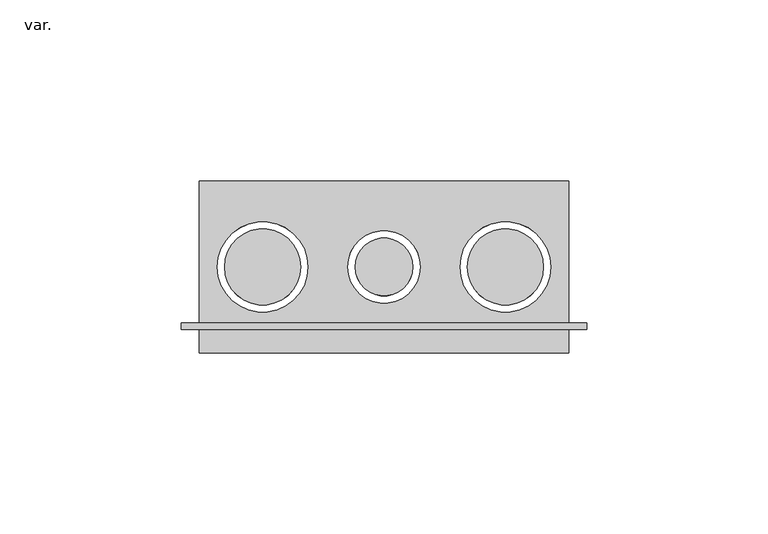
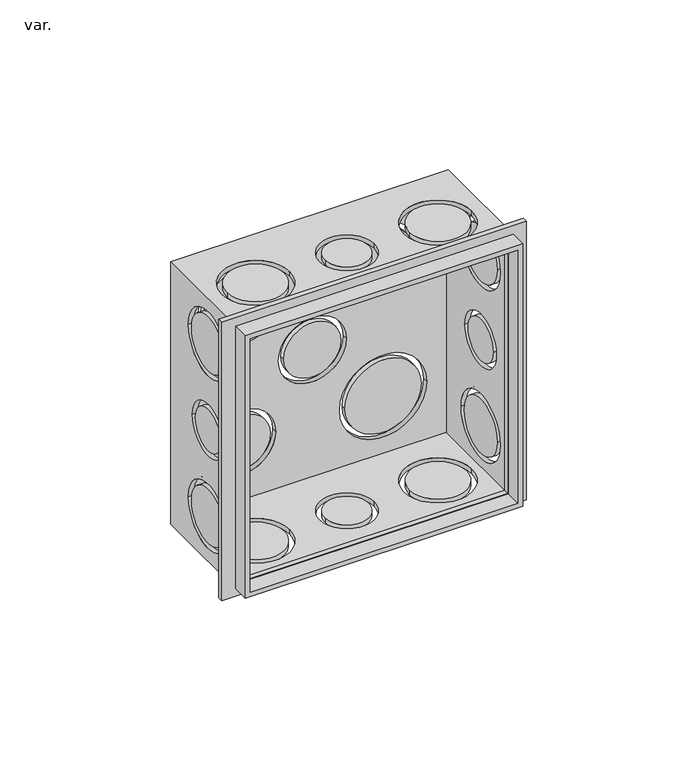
"""IFC4 building model written with IfcOpenShell, lengths in millimetres: pipe fitting geometry, AmancoWavin_ConexõesdoConduite_LinhaEletricaCorrugadoCaixa4x4 : var.."""

from ifc_helpers import new_model, si_unit, frame, origin, place, context, project, spatial, polyline, circle_curve, outline, extrude, source, transform, mapped, element, save
from ifc_brep_helpers import plane_surface, cylinder_surface, revolved_surface, advanced_brep


def var_2987dd68(model_context):
    return source(origin(), model_context, "Body", "SolidModel", [
        extrude(outline(polyline([(54.15, 56.0), (54.15, -56.0), (-54.15, -56.0), (-54.15, 56.0), (54.15, 56.0)]), holes=[polyline([(49.2, 49.2), (-49.2, 49.2), (-49.2, -49.2), (49.2, -49.2), (49.2, 49.2)])]), frame((0.0, 6.5, 0.0), z_axis=(0.0, 1.0, 0.0), x_axis=(0.0, 0.0, 1.0)), (0.0, 0.0, 1.0), 1.8),
        advanced_brep(
        [(51.0, 47.5, 51.0), (51.0, 47.5, -51.0), (-51.0, 47.5, -51.0), (-51.0, 47.5, 51.0), (-42.0, 47.5, 27.08), (-10.0, 47.5, 27.08), (13.5, 47.5, 27.08), (38.5, 47.5, 27.08), (-12.5, 47.5, 0.0), (12.5, 47.5, 0.0), (-38.5, 47.5, -27.08), (-13.5, 47.5, -27.08), (10.0, 47.5, -27.08), (42.0, 47.5, -27.08), (51.0, 0.0, 51.0), (-51.0, 0.0, 51.0), (-51.0, 0.0, -51.0), (51.0, 0.0, -51.0), (49.2, 0.0, 49.2), (49.2, 0.0, -49.2), (-49.2, 0.0, -49.2), (-49.2, 0.0, 49.2), (51.0, 33.75, 0.0), (51.0, 13.75, 0.0), (51.0, 36.25, 33.5), (51.0, 11.25, 33.5), (51.0, 36.25, -33.5), (51.0, 11.25, -33.5), (-10.0, 23.75, -51.0), (10.0, 23.75, -51.0), (-46.0, 23.75, -51.0), (-21.0, 23.75, -51.0), (21.0, 23.75, -51.0), (46.0, 23.75, -51.0), (-51.0, 13.75, 0.0), (-51.0, 33.75, 0.0), (-51.0, 11.25, 33.5), (-51.0, 36.25, 33.5), (-51.0, 11.25, -33.5), (-51.0, 36.25, -33.5), (10.0, 23.75, 51.0), (-10.0, 23.75, 51.0), (-21.0, 23.75, 51.0), (-46.0, 23.75, 51.0), (46.0, 23.75, 51.0), (21.0, 23.75, 51.0), (49.2, 45.7, 49.2), (-49.2, 45.7, 49.2), (-49.2, 45.7, -49.2), (49.2, 45.7, -49.2), (-10.0, 45.7, 27.08), (-42.0, 45.7, 27.08), (38.5, 45.7, 27.08), (13.5, 45.7, 27.08), (12.5, 45.7, 0.0), (-12.5, 45.7, 0.0), (-13.5, 45.7, -27.08), (-38.5, 45.7, -27.08), (42.0, 45.7, -27.08), (10.0, 45.7, -27.08), (49.2, 13.75, 0.0), (49.2, 33.75, 0.0), (49.2, 11.25, 33.5), (49.2, 36.25, 33.5), (49.2, 11.25, -33.5), (49.2, 36.25, -33.5), (10.0, 23.75, -49.2), (-10.0, 23.75, -49.2), (-21.0, 23.75, -49.2), (-46.0, 23.75, -49.2), (46.0, 23.75, -49.2), (21.0, 23.75, -49.2), (-49.2, 33.75, 0.0), (-49.2, 13.75, 0.0), (-49.2, 36.25, 33.5), (-49.2, 11.25, 33.5), (-49.2, 36.25, -33.5), (-49.2, 11.25, -33.5), (-10.0, 23.75, 49.2), (10.0, 23.75, 49.2), (-46.0, 23.75, 49.2), (-21.0, 23.75, 49.2), (21.0, 23.75, 49.2), (46.0, 23.75, 49.2)],
        [
            (0, 1),
            (1, 2),
            (2, 3),
            (3, 0),
            (4, 5, circle_curve(frame((-26.0, 47.5, 27.08), z_axis=(0.0, -1.0, 0.0), x_axis=(-1.0, 0.0, 0.0)), 16.0)),
            (5, 4, circle_curve(frame((-26.0, 47.5, 27.08), z_axis=(0.0, -1.0, 0.0), x_axis=(-1.0, 0.0, 0.0)), 16.0)),
            (6, 7, circle_curve(frame((26.0, 47.5, 27.08), z_axis=(0.0, -1.0, 0.0), x_axis=(-1.0, 0.0, 0.0)), 12.5)),
            (7, 6, circle_curve(frame((26.0, 47.5, 27.08), z_axis=(0.0, -1.0, 0.0), x_axis=(-1.0, 0.0, 0.0)), 12.5)),
            (8, 9, circle_curve(frame((0.0, 47.5, 0.0), z_axis=(0.0, -1.0, 0.0), x_axis=(-1.0, 0.0, 0.0)), 12.5)),
            (9, 8, circle_curve(frame((0.0, 47.5, 0.0), z_axis=(0.0, -1.0, 0.0), x_axis=(-1.0, 0.0, 0.0)), 12.5)),
            (10, 11, circle_curve(frame((-26.0, 47.5, -27.08), z_axis=(0.0, -1.0, 0.0), x_axis=(-1.0, 0.0, 0.0)), 12.5)),
            (11, 10, circle_curve(frame((-26.0, 47.5, -27.08), z_axis=(0.0, -1.0, 0.0), x_axis=(-1.0, 0.0, 0.0)), 12.5)),
            (12, 13, circle_curve(frame((26.0, 47.5, -27.08), z_axis=(0.0, -1.0, 0.0), x_axis=(-1.0, 0.0, 0.0)), 16.0)),
            (13, 12, circle_curve(frame((26.0, 47.5, -27.08), z_axis=(0.0, -1.0, 0.0), x_axis=(-1.0, 0.0, 0.0)), 16.0)),
            (14, 15),
            (15, 16),
            (16, 17),
            (17, 14),
            (18, 19),
            (19, 20),
            (20, 21),
            (21, 18),
            (0, 14),
            (17, 1),
            (22, 23, circle_curve(frame((51.0, 23.75, 0.0), z_axis=(-1.0, 0.0, 0.0), x_axis=(0.0, -1.0, 0.0)), 10.0)),
            (23, 22, circle_curve(frame((51.0, 23.75, 0.0), z_axis=(-1.0, 0.0, 0.0), x_axis=(0.0, -1.0, 0.0)), 10.0)),
            (24, 25, circle_curve(frame((51.0, 23.75, 33.5), z_axis=(-1.0, 0.0, 0.0), x_axis=(0.0, -1.0, 0.0)), 12.5)),
            (25, 24, circle_curve(frame((51.0, 23.75, 33.5), z_axis=(-1.0, 0.0, 0.0), x_axis=(0.0, -1.0, 0.0)), 12.5)),
            (26, 27, circle_curve(frame((51.0, 23.75, -33.5), z_axis=(-1.0, 0.0, 0.0), x_axis=(0.0, -1.0, 0.0)), 12.5)),
            (27, 26, circle_curve(frame((51.0, 23.75, -33.5), z_axis=(-1.0, 0.0, 0.0), x_axis=(0.0, -1.0, 0.0)), 12.5)),
            (16, 2),
            (28, 29, circle_curve(frame((0.0, 23.75, -51.0), z_axis=(0.0, 0.0, 1.0), x_axis=(1.0, 0.0, 0.0)), 10.0)),
            (29, 28, circle_curve(frame((0.0, 23.75, -51.0), z_axis=(0.0, 0.0, 1.0), x_axis=(1.0, 0.0, 0.0)), 10.0)),
            (30, 31, circle_curve(frame((-33.5, 23.75, -51.0), z_axis=(0.0, 0.0, 1.0), x_axis=(1.0, 0.0, 0.0)), 12.5)),
            (31, 30, circle_curve(frame((-33.5, 23.75, -51.0), z_axis=(0.0, 0.0, 1.0), x_axis=(1.0, 0.0, 0.0)), 12.5)),
            (32, 33, circle_curve(frame((33.5, 23.75, -51.0), z_axis=(0.0, 0.0, 1.0), x_axis=(1.0, 0.0, 0.0)), 12.5)),
            (33, 32, circle_curve(frame((33.5, 23.75, -51.0), z_axis=(0.0, 0.0, 1.0), x_axis=(1.0, 0.0, 0.0)), 12.5)),
            (15, 3),
            (34, 35, circle_curve(frame((-51.0, 23.75, 0.0), z_axis=(1.0, 0.0, 0.0), x_axis=(0.0, -1.0, 0.0)), 10.0)),
            (35, 34, circle_curve(frame((-51.0, 23.75, 0.0), z_axis=(1.0, 0.0, 0.0), x_axis=(0.0, -1.0, 0.0)), 10.0)),
            (36, 37, circle_curve(frame((-51.0, 23.75, 33.5), z_axis=(1.0, 0.0, 0.0), x_axis=(0.0, -1.0, 0.0)), 12.5)),
            (37, 36, circle_curve(frame((-51.0, 23.75, 33.5), z_axis=(1.0, 0.0, 0.0), x_axis=(0.0, -1.0, 0.0)), 12.5)),
            (38, 39, circle_curve(frame((-51.0, 23.75, -33.5), z_axis=(1.0, 0.0, 0.0), x_axis=(0.0, -1.0, 0.0)), 12.5)),
            (39, 38, circle_curve(frame((-51.0, 23.75, -33.5), z_axis=(1.0, 0.0, 0.0), x_axis=(0.0, -1.0, 0.0)), 12.5)),
            (40, 41, circle_curve(frame((0.0, 23.75, 51.0), z_axis=(0.0, 0.0, -1.0), x_axis=(1.0, 0.0, 0.0)), 10.0)),
            (41, 40, circle_curve(frame((0.0, 23.75, 51.0), z_axis=(0.0, 0.0, -1.0), x_axis=(1.0, 0.0, 0.0)), 10.0)),
            (42, 43, circle_curve(frame((-33.5, 23.75, 51.0), z_axis=(0.0, 0.0, -1.0), x_axis=(1.0, 0.0, 0.0)), 12.5)),
            (43, 42, circle_curve(frame((-33.5, 23.75, 51.0), z_axis=(0.0, 0.0, -1.0), x_axis=(1.0, 0.0, 0.0)), 12.5)),
            (44, 45, circle_curve(frame((33.5, 23.75, 51.0), z_axis=(0.0, 0.0, -1.0), x_axis=(1.0, 0.0, 0.0)), 12.5)),
            (45, 44, circle_curve(frame((33.5, 23.75, 51.0), z_axis=(0.0, 0.0, -1.0), x_axis=(1.0, 0.0, 0.0)), 12.5)),
            (46, 47),
            (47, 48),
            (48, 49),
            (49, 46),
            (50, 51, circle_curve(frame((-26.0, 45.7, 27.08), z_axis=(0.0, 1.0, 0.0), x_axis=(-1.0, 0.0, 0.0)), 16.0)),
            (51, 50, circle_curve(frame((-26.0, 45.7, 27.08), z_axis=(0.0, 1.0, 0.0), x_axis=(-1.0, 0.0, 0.0)), 16.0)),
            (52, 53, circle_curve(frame((26.0, 45.7, 27.08), z_axis=(0.0, 1.0, 0.0), x_axis=(-1.0, 0.0, 0.0)), 12.5)),
            (53, 52, circle_curve(frame((26.0, 45.7, 27.08), z_axis=(0.0, 1.0, 0.0), x_axis=(-1.0, 0.0, 0.0)), 12.5)),
            (54, 55, circle_curve(frame((0.0, 45.7, 0.0), z_axis=(0.0, 1.0, 0.0), x_axis=(-1.0, 0.0, 0.0)), 12.5)),
            (55, 54, circle_curve(frame((0.0, 45.7, 0.0), z_axis=(0.0, 1.0, 0.0), x_axis=(-1.0, 0.0, 0.0)), 12.5)),
            (56, 57, circle_curve(frame((-26.0, 45.7, -27.08), z_axis=(0.0, 1.0, 0.0), x_axis=(-1.0, 0.0, 0.0)), 12.5)),
            (57, 56, circle_curve(frame((-26.0, 45.7, -27.08), z_axis=(0.0, 1.0, 0.0), x_axis=(-1.0, 0.0, 0.0)), 12.5)),
            (58, 59, circle_curve(frame((26.0, 45.7, -27.08), z_axis=(0.0, 1.0, 0.0), x_axis=(-1.0, 0.0, 0.0)), 16.0)),
            (59, 58, circle_curve(frame((26.0, 45.7, -27.08), z_axis=(0.0, 1.0, 0.0), x_axis=(-1.0, 0.0, 0.0)), 16.0)),
            (49, 19),
            (18, 46),
            (60, 61, circle_curve(frame((49.2, 23.75, 0.0), z_axis=(1.0, 0.0, 0.0), x_axis=(0.0, -1.0, 0.0)), 10.0)),
            (61, 60, circle_curve(frame((49.2, 23.75, 0.0), z_axis=(1.0, 0.0, 0.0), x_axis=(0.0, -1.0, 0.0)), 10.0)),
            (62, 63, circle_curve(frame((49.2, 23.75, 33.5), z_axis=(1.0, 0.0, 0.0), x_axis=(0.0, -1.0, 0.0)), 12.5)),
            (63, 62, circle_curve(frame((49.2, 23.75, 33.5), z_axis=(1.0, 0.0, 0.0), x_axis=(0.0, -1.0, 0.0)), 12.5)),
            (64, 65, circle_curve(frame((49.2, 23.75, -33.5), z_axis=(1.0, 0.0, 0.0), x_axis=(0.0, -1.0, 0.0)), 12.5)),
            (65, 64, circle_curve(frame((49.2, 23.75, -33.5), z_axis=(1.0, 0.0, 0.0), x_axis=(0.0, -1.0, 0.0)), 12.5)),
            (48, 20),
            (66, 67, circle_curve(frame((0.0, 23.75, -49.2), z_axis=(0.0, 0.0, -1.0), x_axis=(1.0, 0.0, 0.0)), 10.0)),
            (67, 66, circle_curve(frame((0.0, 23.75, -49.2), z_axis=(0.0, 0.0, -1.0), x_axis=(1.0, 0.0, 0.0)), 10.0)),
            (68, 69, circle_curve(frame((-33.5, 23.75, -49.2), z_axis=(0.0, 0.0, -1.0), x_axis=(1.0, 0.0, 0.0)), 12.5)),
            (69, 68, circle_curve(frame((-33.5, 23.75, -49.2), z_axis=(0.0, 0.0, -1.0), x_axis=(1.0, 0.0, 0.0)), 12.5)),
            (70, 71, circle_curve(frame((33.5, 23.75, -49.2), z_axis=(0.0, 0.0, -1.0), x_axis=(1.0, 0.0, 0.0)), 12.5)),
            (71, 70, circle_curve(frame((33.5, 23.75, -49.2), z_axis=(0.0, 0.0, -1.0), x_axis=(1.0, 0.0, 0.0)), 12.5)),
            (47, 21),
            (72, 73, circle_curve(frame((-49.2, 23.75, 0.0), z_axis=(-1.0, 0.0, 0.0), x_axis=(0.0, -1.0, 0.0)), 10.0)),
            (73, 72, circle_curve(frame((-49.2, 23.75, 0.0), z_axis=(-1.0, 0.0, 0.0), x_axis=(0.0, -1.0, 0.0)), 10.0)),
            (74, 75, circle_curve(frame((-49.2, 23.75, 33.5), z_axis=(-1.0, 0.0, 0.0), x_axis=(0.0, -1.0, 0.0)), 12.5)),
            (75, 74, circle_curve(frame((-49.2, 23.75, 33.5), z_axis=(-1.0, 0.0, 0.0), x_axis=(0.0, -1.0, 0.0)), 12.5)),
            (76, 77, circle_curve(frame((-49.2, 23.75, -33.5), z_axis=(-1.0, 0.0, 0.0), x_axis=(0.0, -1.0, 0.0)), 12.5)),
            (77, 76, circle_curve(frame((-49.2, 23.75, -33.5), z_axis=(-1.0, 0.0, 0.0), x_axis=(0.0, -1.0, 0.0)), 12.5)),
            (78, 79, circle_curve(frame((0.0, 23.75, 49.2), z_axis=(0.0, 0.0, 1.0), x_axis=(1.0, 0.0, 0.0)), 10.0)),
            (79, 78, circle_curve(frame((0.0, 23.75, 49.2), z_axis=(0.0, 0.0, 1.0), x_axis=(1.0, 0.0, 0.0)), 10.0)),
            (80, 81, circle_curve(frame((-33.5, 23.75, 49.2), z_axis=(0.0, 0.0, 1.0), x_axis=(1.0, 0.0, 0.0)), 12.5)),
            (81, 80, circle_curve(frame((-33.5, 23.75, 49.2), z_axis=(0.0, 0.0, 1.0), x_axis=(1.0, 0.0, 0.0)), 12.5)),
            (82, 83, circle_curve(frame((33.5, 23.75, 49.2), z_axis=(0.0, 0.0, 1.0), x_axis=(1.0, 0.0, 0.0)), 12.5)),
            (83, 82, circle_curve(frame((33.5, 23.75, 49.2), z_axis=(0.0, 0.0, 1.0), x_axis=(1.0, 0.0, 0.0)), 12.5)),
            (22, 61),
            (60, 23),
            (72, 35),
            (34, 73),
            (24, 63),
            (62, 25),
            (74, 37),
            (36, 75),
            (26, 65),
            (64, 27),
            (76, 39),
            (38, 77),
            (28, 67),
            (66, 29),
            (78, 41),
            (40, 79),
            (30, 69),
            (68, 31),
            (80, 43),
            (42, 81),
            (32, 71),
            (70, 33),
            (82, 45),
            (44, 83),
            (4, 51),
            (50, 5),
            (6, 53),
            (52, 7),
            (8, 55),
            (54, 9),
            (10, 57),
            (56, 11),
            (12, 59),
            (58, 13),
        ],
        [
            plane_surface(frame((51.0, 47.5, 51.0), z_axis=(0.0, 1.0, 0.0), x_axis=(0.0, 0.0, -1.0))),
            plane_surface(frame((51.0, 0.0, 51.0), z_axis=(0.0, -1.0, 0.0), x_axis=(0.0, 0.0, 1.0))),
            plane_surface(frame((51.0, 47.5, 51.0), z_axis=(1.0, 0.0, 0.0), x_axis=(0.0, -1.0, 0.0))),
            plane_surface(frame((51.0, 47.5, -51.0), z_axis=(0.0, 0.0, -1.0), x_axis=(0.0, -1.0, 0.0))),
            plane_surface(frame((-51.0, 47.5, -51.0), z_axis=(-1.0, 0.0, 0.0), x_axis=(0.0, -1.0, 0.0))),
            plane_surface(frame((-51.0, 47.5, 51.0), z_axis=(0.0, 0.0, 1.0), x_axis=(0.0, -1.0, 0.0))),
            plane_surface(frame((49.2, 45.7, 49.2), z_axis=(0.0, -1.0, 0.0), x_axis=(0.0, 0.0, -1.0))),
            plane_surface(frame((49.2, 45.7, 49.2), z_axis=(-1.0, 0.0, 0.0), x_axis=(0.0, -1.0, 0.0))),
            plane_surface(frame((49.2, 45.7, -49.2), z_axis=(0.0, 0.0, 1.0), x_axis=(0.0, -1.0, 0.0))),
            plane_surface(frame((-49.2, 45.7, -49.2), z_axis=(1.0, 0.0, 0.0), x_axis=(0.0, -1.0, 0.0))),
            plane_surface(frame((-49.2, 45.7, 49.2), z_axis=(0.0, 0.0, -1.0), x_axis=(0.0, -1.0, 0.0))),
            revolved_surface(polyline([(49.2, 13.75, 0.0), (51.0, 13.75, 0.0)]), (51.0, 23.75, 0.0), (-1.0, 0.0, 0.0)),
            revolved_surface(polyline([(-51.0, 13.75, 0.0), (-49.2, 13.75, 0.0)]), (51.0, 23.75, 0.0), (-1.0, 0.0, 0.0)),
            revolved_surface(polyline([(49.2, 11.25, 33.5), (51.0, 11.25, 33.5)]), (0.0, 23.75, 33.5), (-1.0, 0.0, 0.0)),
            revolved_surface(polyline([(-51.0, 11.25, 33.5), (-49.2, 11.25, 33.5)]), (0.0, 23.75, 33.5), (-1.0, 0.0, 0.0)),
            revolved_surface(polyline([(49.2, 11.25, -33.5), (51.0, 11.25, -33.5)]), (0.0, 23.75, -33.5), (-1.0, 0.0, 0.0)),
            revolved_surface(polyline([(-51.0, 11.25, -33.5), (-49.2, 11.25, -33.5)]), (0.0, 23.75, -33.5), (-1.0, 0.0, 0.0)),
            revolved_surface(polyline([(10.0, 23.75, -49.2), (10.0, 23.75, -51.0)]), (0.0, 23.75, -51.0), (0.0, 0.0, 1.0)),
            revolved_surface(polyline([(10.0, 23.75, 51.0), (10.0, 23.75, 49.2)]), (0.0, 23.75, -51.0), (0.0, 0.0, 1.0)),
            revolved_surface(polyline([(-21.0, 23.75, -49.2), (-21.0, 23.75, -51.0)]), (-33.5, 23.75, 0.0), (0.0, 0.0, 1.0)),
            revolved_surface(polyline([(-21.0, 23.75, 51.0), (-21.0, 23.75, 49.2)]), (-33.5, 23.75, 0.0), (0.0, 0.0, 1.0)),
            revolved_surface(polyline([(46.0, 23.75, -49.2), (46.0, 23.75, -51.0)]), (33.5, 23.75, 0.0), (0.0, 0.0, 1.0)),
            revolved_surface(polyline([(46.0, 23.75, 51.0), (46.0, 23.75, 49.2)]), (33.5, 23.75, 0.0), (0.0, 0.0, 1.0)),
            revolved_surface(polyline([(-42.0, 47.5, 27.08), (-42.0, 45.7, 27.08)]), (-26.0, 0.0, 27.08), (0.0, 1.0, 0.0)),
            revolved_surface(polyline([(13.5, 47.5, 27.08), (13.5, 45.7, 27.08)]), (26.0, 0.0, 27.08), (0.0, 1.0, 0.0)),
            revolved_surface(polyline([(-12.5, 47.5, 0.0), (-12.5, 45.7, 0.0)]), (0.0, 0.0, 0.0), (0.0, 1.0, 0.0)),
            revolved_surface(polyline([(-38.5, 47.5, -27.08), (-38.5, 45.7, -27.08)]), (-26.0, 0.0, -27.08), (0.0, 1.0, 0.0)),
            revolved_surface(polyline([(10.0, 47.5, -27.08), (10.0, 45.7, -27.08)]), (26.0, 0.0, -27.08), (0.0, 1.0, 0.0)),
        ],
        [
            (0, [[1, 2, 3, 4], [5, 6], [7, 8], [9, 10], [11, 12], [13, 14]]),
            (1, [[15, 16, 17, 18], [19, 20, 21, 22]]),
            (2, [[-1, 23, -18, 24], [25, 26], [27, 28], [29, 30]]),
            (3, [[-2, -24, -17, 31], [32, 33], [34, 35], [36, 37]]),
            (4, [[-3, -31, -16, 38], [39, 40], [41, 42], [43, 44]]),
            (5, [[-4, -38, -15, -23], [45, 46], [47, 48], [49, 50]]),
            (6, [[51, 52, 53, 54], [55, 56], [57, 58], [59, 60], [61, 62], [63, 64]]),
            (7, [[-54, 65, -19, 66], [67, 68], [69, 70], [71, 72]]),
            (8, [[-53, 73, -20, -65], [74, 75], [76, 77], [78, 79]]),
            (9, [[-52, 80, -21, -73], [81, 82], [83, 84], [85, 86]]),
            (10, [[-51, -66, -22, -80], [87, 88], [89, 90], [91, 92]]),
            (11, [[93, -67, 94, -25]]),
            (12, [[95, -39, 96, -81]]),
            (11, [[-93, -26, -94, -68]]),
            (12, [[-95, -82, -96, -40]]),
            (13, [[97, -69, 98, -27]]),
            (14, [[99, -41, 100, -83]]),
            (13, [[-97, -28, -98, -70]]),
            (14, [[-99, -84, -100, -42]]),
            (15, [[101, -71, 102, -29]]),
            (16, [[103, -43, 104, -85]]),
            (15, [[-101, -30, -102, -72]]),
            (16, [[-103, -86, -104, -44]]),
            (17, [[105, -74, 106, -32]]),
            (18, [[107, -45, 108, -87]]),
            (17, [[-105, -33, -106, -75]]),
            (18, [[-107, -88, -108, -46]]),
            (19, [[109, -76, 110, -34]]),
            (20, [[111, -47, 112, -89]]),
            (19, [[-109, -35, -110, -77]]),
            (20, [[-111, -90, -112, -48]]),
            (21, [[113, -78, 114, -36]]),
            (22, [[115, -49, 116, -91]]),
            (21, [[-113, -37, -114, -79]]),
            (22, [[-115, -92, -116, -50]]),
            (23, [[117, -55, 118, -5]]),
            (23, [[-117, -6, -118, -56]]),
            (24, [[119, -57, 120, -7]]),
            (24, [[-119, -8, -120, -58]]),
            (25, [[121, -59, 122, -9]]),
            (25, [[-121, -10, -122, -60]]),
            (26, [[123, -61, 124, -11]]),
            (26, [[-123, -12, -124, -62]]),
            (27, [[125, -63, 126, -13]]),
            (27, [[-125, -14, -126, -64]]),
        ],
    ),
        advanced_brep(
        [(-40.0, 47.5, 27.08), (-12.0, 47.5, 27.08), (-12.0, 45.7, 27.08), (-40.0, 45.7, 27.08)],
        [
            (0, 1, circle_curve(frame((-26.0, 47.5, 27.08), z_axis=(0.0, 1.0, 0.0), x_axis=(-1.0, 0.0, 0.0)), 14.0)),
            (1, 0, circle_curve(frame((-26.0, 47.5, 27.08), z_axis=(0.0, 1.0, 0.0), x_axis=(-1.0, 0.0, 0.0)), 14.0)),
            (2, 3, circle_curve(frame((-26.0, 45.7, 27.08), z_axis=(0.0, -1.0, 0.0), x_axis=(-1.0, 0.0, 0.0)), 14.0)),
            (3, 2, circle_curve(frame((-26.0, 45.7, 27.08), z_axis=(0.0, -1.0, 0.0), x_axis=(-1.0, 0.0, 0.0)), 14.0)),
            (0, 3),
            (2, 1),
        ],
        [
            plane_surface(frame((51.0, 47.5, 51.0), z_axis=(0.0, 1.0, 0.0), x_axis=(0.0, 0.0, -1.0))),
            plane_surface(frame((49.2, 45.7, 49.2), z_axis=(0.0, -1.0, 0.0), x_axis=(0.0, 0.0, -1.0))),
            cylinder_surface(frame((-26.0, 45.7, 27.08), z_axis=(0.0, -1.0, 0.0), x_axis=(-1.0, 0.0, 0.0)), 14.0),
        ],
        [
            (0, [[1, 2]]),
            (1, [[3, 4]]),
            (2, [[5, -3, 6, -1]]),
            (2, [[-5, -2, -6, -4]]),
        ],
    ),
        advanced_brep(
        [(15.5, 47.5, 27.08), (36.5, 47.5, 27.08), (36.5, 45.7, 27.08), (15.5, 45.7, 27.08)],
        [
            (0, 1, circle_curve(frame((26.0, 47.5, 27.08), z_axis=(0.0, 1.0, 0.0), x_axis=(-1.0, 0.0, 0.0)), 10.5)),
            (1, 0, circle_curve(frame((26.0, 47.5, 27.08), z_axis=(0.0, 1.0, 0.0), x_axis=(-1.0, 0.0, 0.0)), 10.5)),
            (2, 3, circle_curve(frame((26.0, 45.7, 27.08), z_axis=(0.0, -1.0, 0.0), x_axis=(-1.0, 0.0, 0.0)), 10.5)),
            (3, 2, circle_curve(frame((26.0, 45.7, 27.08), z_axis=(0.0, -1.0, 0.0), x_axis=(-1.0, 0.0, 0.0)), 10.5)),
            (0, 3),
            (2, 1),
        ],
        [
            plane_surface(frame((51.0, 47.5, 51.0), z_axis=(0.0, 1.0, 0.0), x_axis=(0.0, 0.0, -1.0))),
            plane_surface(frame((49.2, 45.7, 49.2), z_axis=(0.0, -1.0, 0.0), x_axis=(0.0, 0.0, -1.0))),
            cylinder_surface(frame((26.0, 0.0, 27.08), z_axis=(0.0, -1.0, 0.0), x_axis=(-1.0, 0.0, 0.0)), 10.5),
        ],
        [
            (0, [[1, 2]]),
            (1, [[3, 4]]),
            (2, [[5, -3, 6, -1]]),
            (2, [[-5, -2, -6, -4]]),
        ],
    ),
        advanced_brep(
        [(-10.5, 47.5, 0.0), (10.5, 47.5, 0.0), (10.5, 45.7, 0.0), (-10.5, 45.7, 0.0)],
        [
            (0, 1, circle_curve(frame((0.0, 47.5, 0.0), z_axis=(0.0, 1.0, 0.0), x_axis=(-1.0, 0.0, 0.0)), 10.5)),
            (1, 0, circle_curve(frame((0.0, 47.5, 0.0), z_axis=(0.0, 1.0, 0.0), x_axis=(-1.0, 0.0, 0.0)), 10.5)),
            (2, 3, circle_curve(frame((0.0, 45.7, 0.0), z_axis=(0.0, -1.0, 0.0), x_axis=(-1.0, 0.0, 0.0)), 10.5)),
            (3, 2, circle_curve(frame((0.0, 45.7, 0.0), z_axis=(0.0, -1.0, 0.0), x_axis=(-1.0, 0.0, 0.0)), 10.5)),
            (0, 3),
            (2, 1),
        ],
        [
            plane_surface(frame((51.0, 47.5, 51.0), z_axis=(0.0, 1.0, 0.0), x_axis=(0.0, 0.0, -1.0))),
            plane_surface(frame((49.2, 45.7, 49.2), z_axis=(0.0, -1.0, 0.0), x_axis=(0.0, 0.0, -1.0))),
            cylinder_surface(frame((0.0, 0.0, 0.0), z_axis=(0.0, -1.0, 0.0), x_axis=(-1.0, 0.0, 0.0)), 10.5),
        ],
        [
            (0, [[1, 2]]),
            (1, [[3, 4]]),
            (2, [[5, -3, 6, -1]]),
            (2, [[-5, -2, -6, -4]]),
        ],
    ),
        advanced_brep(
        [(-36.5, 47.5, -27.08), (-15.5, 47.5, -27.08), (-15.5, 45.7, -27.08), (-36.5, 45.7, -27.08)],
        [
            (0, 1, circle_curve(frame((-26.0, 47.5, -27.08), z_axis=(0.0, 1.0, 0.0), x_axis=(-1.0, 0.0, 0.0)), 10.5)),
            (1, 0, circle_curve(frame((-26.0, 47.5, -27.08), z_axis=(0.0, 1.0, 0.0), x_axis=(-1.0, 0.0, 0.0)), 10.5)),
            (2, 3, circle_curve(frame((-26.0, 45.7, -27.08), z_axis=(0.0, -1.0, 0.0), x_axis=(-1.0, 0.0, 0.0)), 10.5)),
            (3, 2, circle_curve(frame((-26.0, 45.7, -27.08), z_axis=(0.0, -1.0, 0.0), x_axis=(-1.0, 0.0, 0.0)), 10.5)),
            (0, 3),
            (2, 1),
        ],
        [
            plane_surface(frame((51.0, 47.5, 51.0), z_axis=(0.0, 1.0, 0.0), x_axis=(0.0, 0.0, -1.0))),
            plane_surface(frame((49.2, 45.7, 49.2), z_axis=(0.0, -1.0, 0.0), x_axis=(0.0, 0.0, -1.0))),
            cylinder_surface(frame((-26.0, 0.0, -27.08), z_axis=(0.0, -1.0, 0.0), x_axis=(-1.0, 0.0, 0.0)), 10.5),
        ],
        [
            (0, [[1, 2]]),
            (1, [[3, 4]]),
            (2, [[5, -3, 6, -1]]),
            (2, [[-5, -2, -6, -4]]),
        ],
    ),
        advanced_brep(
        [(12.0, 47.5, -27.08), (40.0, 47.5, -27.08), (40.0, 45.7, -27.08), (12.0, 45.7, -27.08)],
        [
            (0, 1, circle_curve(frame((26.0, 47.5, -27.08), z_axis=(0.0, 1.0, 0.0), x_axis=(-1.0, 0.0, 0.0)), 14.0)),
            (1, 0, circle_curve(frame((26.0, 47.5, -27.08), z_axis=(0.0, 1.0, 0.0), x_axis=(-1.0, 0.0, 0.0)), 14.0)),
            (2, 3, circle_curve(frame((26.0, 45.7, -27.08), z_axis=(0.0, -1.0, 0.0), x_axis=(-1.0, 0.0, 0.0)), 14.0)),
            (3, 2, circle_curve(frame((26.0, 45.7, -27.08), z_axis=(0.0, -1.0, 0.0), x_axis=(-1.0, 0.0, 0.0)), 14.0)),
            (0, 3),
            (2, 1),
        ],
        [
            plane_surface(frame((51.0, 47.5, 51.0), z_axis=(0.0, 1.0, 0.0), x_axis=(0.0, 0.0, -1.0))),
            plane_surface(frame((49.2, 45.7, 49.2), z_axis=(0.0, -1.0, 0.0), x_axis=(0.0, 0.0, -1.0))),
            cylinder_surface(frame((26.0, 0.0, -27.08), z_axis=(0.0, -1.0, 0.0), x_axis=(-1.0, 0.0, 0.0)), 14.0),
        ],
        [
            (0, [[1, 2]]),
            (1, [[3, 4]]),
            (2, [[5, -3, 6, -1]]),
            (2, [[-5, -2, -6, -4]]),
        ],
    ),
        advanced_brep(
        [(51.0, 34.25, 33.5), (51.0, 13.25, 33.5), (49.2, 13.25, 33.5), (49.2, 34.25, 33.5)],
        [
            (0, 1, circle_curve(frame((51.0, 23.75, 33.5), z_axis=(1.0, 0.0, 0.0), x_axis=(0.0, -1.0, 0.0)), 10.5)),
            (1, 0, circle_curve(frame((51.0, 23.75, 33.5), z_axis=(1.0, 0.0, 0.0), x_axis=(0.0, -1.0, 0.0)), 10.5)),
            (2, 3, circle_curve(frame((49.2, 23.75, 33.5), z_axis=(-1.0, 0.0, 0.0), x_axis=(0.0, -1.0, 0.0)), 10.5)),
            (3, 2, circle_curve(frame((49.2, 23.75, 33.5), z_axis=(-1.0, 0.0, 0.0), x_axis=(0.0, -1.0, 0.0)), 10.5)),
            (0, 3),
            (2, 1),
        ],
        [
            plane_surface(frame((51.0, 47.5, 51.0), z_axis=(1.0, 0.0, 0.0), x_axis=(0.0, -1.0, 0.0))),
            plane_surface(frame((49.2, 45.7, 49.2), z_axis=(-1.0, 0.0, 0.0), x_axis=(0.0, -1.0, 0.0))),
            cylinder_surface(frame((0.0, 23.75, 33.5), z_axis=(1.0, 0.0, 0.0), x_axis=(0.0, -1.0, 0.0)), 10.5),
        ],
        [
            (0, [[1, 2]]),
            (1, [[3, 4]]),
            (2, [[5, -3, 6, -1]]),
            (2, [[-5, -2, -6, -4]]),
        ],
    ),
        advanced_brep(
        [(51.0, 34.25, -33.5), (51.0, 13.25, -33.5), (49.2, 13.25, -33.5), (49.2, 34.25, -33.5)],
        [
            (0, 1, circle_curve(frame((51.0, 23.75, -33.5), z_axis=(1.0, 0.0, 0.0), x_axis=(0.0, -1.0, 0.0)), 10.5)),
            (1, 0, circle_curve(frame((51.0, 23.75, -33.5), z_axis=(1.0, 0.0, 0.0), x_axis=(0.0, -1.0, 0.0)), 10.5)),
            (2, 3, circle_curve(frame((49.2, 23.75, -33.5), z_axis=(-1.0, 0.0, 0.0), x_axis=(0.0, -1.0, 0.0)), 10.5)),
            (3, 2, circle_curve(frame((49.2, 23.75, -33.5), z_axis=(-1.0, 0.0, 0.0), x_axis=(0.0, -1.0, 0.0)), 10.5)),
            (0, 3),
            (2, 1),
        ],
        [
            plane_surface(frame((51.0, 47.5, 51.0), z_axis=(1.0, 0.0, 0.0), x_axis=(0.0, -1.0, 0.0))),
            plane_surface(frame((49.2, 45.7, 49.2), z_axis=(-1.0, 0.0, 0.0), x_axis=(0.0, -1.0, 0.0))),
            cylinder_surface(frame((0.0, 23.75, -33.5), z_axis=(1.0, 0.0, 0.0), x_axis=(0.0, -1.0, 0.0)), 10.5),
        ],
        [
            (0, [[1, 2]]),
            (1, [[3, 4]]),
            (2, [[5, -3, 6, -1]]),
            (2, [[-5, -2, -6, -4]]),
        ],
    ),
        advanced_brep(
        [(51.0, 31.75, 0.0), (51.0, 15.75, 0.0), (49.2, 15.75, 0.0), (49.2, 31.75, 0.0)],
        [
            (0, 1, circle_curve(frame((51.0, 23.75, 0.0), z_axis=(1.0, 0.0, 0.0), x_axis=(0.0, -1.0, 0.0)), 8.0)),
            (1, 0, circle_curve(frame((51.0, 23.75, 0.0), z_axis=(1.0, 0.0, 0.0), x_axis=(0.0, -1.0, 0.0)), 8.0)),
            (2, 3, circle_curve(frame((49.2, 23.75, 0.0), z_axis=(-1.0, 0.0, 0.0), x_axis=(0.0, -1.0, 0.0)), 8.0)),
            (3, 2, circle_curve(frame((49.2, 23.75, 0.0), z_axis=(-1.0, 0.0, 0.0), x_axis=(0.0, -1.0, 0.0)), 8.0)),
            (0, 3),
            (2, 1),
        ],
        [
            plane_surface(frame((51.0, 47.5, 51.0), z_axis=(1.0, 0.0, 0.0), x_axis=(0.0, -1.0, 0.0))),
            plane_surface(frame((49.2, 45.7, 49.2), z_axis=(-1.0, 0.0, 0.0), x_axis=(0.0, -1.0, 0.0))),
            cylinder_surface(frame((0.0, 23.75, 0.0), z_axis=(1.0, 0.0, 0.0), x_axis=(0.0, -1.0, 0.0)), 8.0),
        ],
        [
            (0, [[1, 2]]),
            (1, [[3, 4]]),
            (2, [[5, -3, 6, -1]]),
            (2, [[-5, -2, -6, -4]]),
        ],
    ),
        advanced_brep(
        [(-8.0, 23.75, -51.0), (8.0, 23.75, -51.0), (8.0, 23.75, -49.2), (-8.0, 23.75, -49.2)],
        [
            (0, 1, circle_curve(frame((0.0, 23.75, -51.0), z_axis=(0.0, 0.0, -1.0), x_axis=(1.0, 0.0, 0.0)), 8.0)),
            (1, 0, circle_curve(frame((0.0, 23.75, -51.0), z_axis=(0.0, 0.0, -1.0), x_axis=(1.0, 0.0, 0.0)), 8.0)),
            (2, 3, circle_curve(frame((0.0, 23.75, -49.2), z_axis=(0.0, 0.0, 1.0), x_axis=(1.0, 0.0, 0.0)), 8.0)),
            (3, 2, circle_curve(frame((0.0, 23.75, -49.2), z_axis=(0.0, 0.0, 1.0), x_axis=(1.0, 0.0, 0.0)), 8.0)),
            (0, 3),
            (2, 1),
        ],
        [
            plane_surface(frame((51.0, 47.5, -51.0), z_axis=(0.0, 0.0, -1.0), x_axis=(0.0, -1.0, 0.0))),
            plane_surface(frame((49.2, 45.7, -49.2), z_axis=(0.0, 0.0, 1.0), x_axis=(0.0, -1.0, 0.0))),
            cylinder_surface(frame((0.0, 23.75, 0.0), z_axis=(0.0, 0.0, -1.0), x_axis=(1.0, 0.0, 0.0)), 8.0),
        ],
        [
            (0, [[1, 2]]),
            (1, [[3, 4]]),
            (2, [[5, -3, 6, -1]]),
            (2, [[-5, -2, -6, -4]]),
        ],
    ),
        advanced_brep(
        [(-44.0, 23.75, -51.0), (-23.0, 23.75, -51.0), (-23.0, 23.75, -49.2), (-44.0, 23.75, -49.2)],
        [
            (0, 1, circle_curve(frame((-33.5, 23.75, -51.0), z_axis=(0.0, 0.0, -1.0), x_axis=(1.0, 0.0, 0.0)), 10.5)),
            (1, 0, circle_curve(frame((-33.5, 23.75, -51.0), z_axis=(0.0, 0.0, -1.0), x_axis=(1.0, 0.0, 0.0)), 10.5)),
            (2, 3, circle_curve(frame((-33.5, 23.75, -49.2), z_axis=(0.0, 0.0, 1.0), x_axis=(1.0, 0.0, 0.0)), 10.5)),
            (3, 2, circle_curve(frame((-33.5, 23.75, -49.2), z_axis=(0.0, 0.0, 1.0), x_axis=(1.0, 0.0, 0.0)), 10.5)),
            (0, 3),
            (2, 1),
        ],
        [
            plane_surface(frame((51.0, 47.5, -51.0), z_axis=(0.0, 0.0, -1.0), x_axis=(0.0, -1.0, 0.0))),
            plane_surface(frame((49.2, 45.7, -49.2), z_axis=(0.0, 0.0, 1.0), x_axis=(0.0, -1.0, 0.0))),
            cylinder_surface(frame((-33.5, 23.75, 0.0), z_axis=(0.0, 0.0, -1.0), x_axis=(1.0, 0.0, 0.0)), 10.5),
        ],
        [
            (0, [[1, 2]]),
            (1, [[3, 4]]),
            (2, [[5, -3, 6, -1]]),
            (2, [[-5, -2, -6, -4]]),
        ],
    ),
        advanced_brep(
        [(23.0, 23.75, -51.0), (44.0, 23.75, -51.0), (44.0, 23.75, -49.2), (23.0, 23.75, -49.2)],
        [
            (0, 1, circle_curve(frame((33.5, 23.75, -51.0), z_axis=(0.0, 0.0, -1.0), x_axis=(1.0, 0.0, 0.0)), 10.5)),
            (1, 0, circle_curve(frame((33.5, 23.75, -51.0), z_axis=(0.0, 0.0, -1.0), x_axis=(1.0, 0.0, 0.0)), 10.5)),
            (2, 3, circle_curve(frame((33.5, 23.75, -49.2), z_axis=(0.0, 0.0, 1.0), x_axis=(1.0, 0.0, 0.0)), 10.5)),
            (3, 2, circle_curve(frame((33.5, 23.75, -49.2), z_axis=(0.0, 0.0, 1.0), x_axis=(1.0, 0.0, 0.0)), 10.5)),
            (0, 3),
            (2, 1),
        ],
        [
            plane_surface(frame((51.0, 47.5, -51.0), z_axis=(0.0, 0.0, -1.0), x_axis=(0.0, -1.0, 0.0))),
            plane_surface(frame((49.2, 45.7, -49.2), z_axis=(0.0, 0.0, 1.0), x_axis=(0.0, -1.0, 0.0))),
            cylinder_surface(frame((33.5, 23.75, 0.0), z_axis=(0.0, 0.0, -1.0), x_axis=(1.0, 0.0, 0.0)), 10.5),
        ],
        [
            (0, [[1, 2]]),
            (1, [[3, 4]]),
            (2, [[5, -3, 6, -1]]),
            (2, [[-5, -2, -6, -4]]),
        ],
    ),
        advanced_brep(
        [(-51.0, 13.25, 33.5), (-51.0, 34.25, 33.5), (-49.2, 34.25, 33.5), (-49.2, 13.25, 33.5)],
        [
            (0, 1, circle_curve(frame((-51.0, 23.75, 33.5), z_axis=(-1.0, 0.0, 0.0), x_axis=(0.0, -1.0, 0.0)), 10.5)),
            (1, 0, circle_curve(frame((-51.0, 23.75, 33.5), z_axis=(-1.0, 0.0, 0.0), x_axis=(0.0, -1.0, 0.0)), 10.5)),
            (2, 3, circle_curve(frame((-49.2, 23.75, 33.5), z_axis=(1.0, 0.0, 0.0), x_axis=(0.0, -1.0, 0.0)), 10.5)),
            (3, 2, circle_curve(frame((-49.2, 23.75, 33.5), z_axis=(1.0, 0.0, 0.0), x_axis=(0.0, -1.0, 0.0)), 10.5)),
            (2, 1),
            (0, 3),
        ],
        [
            plane_surface(frame((-51.0, 47.5, -51.0), z_axis=(-1.0, 0.0, 0.0), x_axis=(0.0, -1.0, 0.0))),
            plane_surface(frame((-49.2, 45.7, -49.2), z_axis=(1.0, 0.0, 0.0), x_axis=(0.0, -1.0, 0.0))),
            cylinder_surface(frame((0.0, 23.75, 33.5), z_axis=(1.0, 0.0, 0.0), x_axis=(0.0, -1.0, 0.0)), 10.5),
        ],
        [
            (0, [[1, 2]]),
            (1, [[3, 4]]),
            (2, [[5, -1, 6, -3]]),
            (2, [[-5, -4, -6, -2]]),
        ],
    ),
        advanced_brep(
        [(-51.0, 13.25, -33.5), (-51.0, 34.25, -33.5), (-49.2, 34.25, -33.5), (-49.2, 13.25, -33.5)],
        [
            (0, 1, circle_curve(frame((-51.0, 23.75, -33.5), z_axis=(-1.0, 0.0, 0.0), x_axis=(0.0, -1.0, 0.0)), 10.5)),
            (1, 0, circle_curve(frame((-51.0, 23.75, -33.5), z_axis=(-1.0, 0.0, 0.0), x_axis=(0.0, -1.0, 0.0)), 10.5)),
            (2, 3, circle_curve(frame((-49.2, 23.75, -33.5), z_axis=(1.0, 0.0, 0.0), x_axis=(0.0, -1.0, 0.0)), 10.5)),
            (3, 2, circle_curve(frame((-49.2, 23.75, -33.5), z_axis=(1.0, 0.0, 0.0), x_axis=(0.0, -1.0, 0.0)), 10.5)),
            (2, 1),
            (0, 3),
        ],
        [
            plane_surface(frame((-51.0, 47.5, -51.0), z_axis=(-1.0, 0.0, 0.0), x_axis=(0.0, -1.0, 0.0))),
            plane_surface(frame((-49.2, 45.7, -49.2), z_axis=(1.0, 0.0, 0.0), x_axis=(0.0, -1.0, 0.0))),
            cylinder_surface(frame((0.0, 23.75, -33.5), z_axis=(1.0, 0.0, 0.0), x_axis=(0.0, -1.0, 0.0)), 10.5),
        ],
        [
            (0, [[1, 2]]),
            (1, [[3, 4]]),
            (2, [[5, -1, 6, -3]]),
            (2, [[-5, -4, -6, -2]]),
        ],
    ),
        advanced_brep(
        [(-51.0, 15.75, 0.0), (-51.0, 31.75, 0.0), (-49.2, 31.75, 0.0), (-49.2, 15.75, 0.0)],
        [
            (0, 1, circle_curve(frame((-51.0, 23.75, 0.0), z_axis=(-1.0, 0.0, 0.0), x_axis=(0.0, -1.0, 0.0)), 8.0)),
            (1, 0, circle_curve(frame((-51.0, 23.75, 0.0), z_axis=(-1.0, 0.0, 0.0), x_axis=(0.0, -1.0, 0.0)), 8.0)),
            (2, 3, circle_curve(frame((-49.2, 23.75, 0.0), z_axis=(1.0, 0.0, 0.0), x_axis=(0.0, -1.0, 0.0)), 8.0)),
            (3, 2, circle_curve(frame((-49.2, 23.75, 0.0), z_axis=(1.0, 0.0, 0.0), x_axis=(0.0, -1.0, 0.0)), 8.0)),
            (2, 1),
            (0, 3),
        ],
        [
            plane_surface(frame((-51.0, 47.5, -51.0), z_axis=(-1.0, 0.0, 0.0), x_axis=(0.0, -1.0, 0.0))),
            plane_surface(frame((-49.2, 45.7, -49.2), z_axis=(1.0, 0.0, 0.0), x_axis=(0.0, -1.0, 0.0))),
            cylinder_surface(frame((0.0, 23.75, 0.0), z_axis=(1.0, 0.0, 0.0), x_axis=(0.0, -1.0, 0.0)), 8.0),
        ],
        [
            (0, [[1, 2]]),
            (1, [[3, 4]]),
            (2, [[5, -1, 6, -3]]),
            (2, [[-5, -4, -6, -2]]),
        ],
    ),
        advanced_brep(
        [(8.0, 23.75, 51.0), (-8.0, 23.75, 51.0), (-8.0, 23.75, 49.2), (8.0, 23.75, 49.2)],
        [
            (0, 1, circle_curve(frame((0.0, 23.75, 51.0), z_axis=(0.0, 0.0, 1.0), x_axis=(1.0, 0.0, 0.0)), 8.0)),
            (1, 0, circle_curve(frame((0.0, 23.75, 51.0), z_axis=(0.0, 0.0, 1.0), x_axis=(1.0, 0.0, 0.0)), 8.0)),
            (2, 3, circle_curve(frame((0.0, 23.75, 49.2), z_axis=(0.0, 0.0, -1.0), x_axis=(1.0, 0.0, 0.0)), 8.0)),
            (3, 2, circle_curve(frame((0.0, 23.75, 49.2), z_axis=(0.0, 0.0, -1.0), x_axis=(1.0, 0.0, 0.0)), 8.0)),
            (2, 1),
            (0, 3),
        ],
        [
            plane_surface(frame((-51.0, 47.5, 51.0), z_axis=(0.0, 0.0, 1.0), x_axis=(0.0, -1.0, 0.0))),
            plane_surface(frame((-49.2, 45.7, 49.2), z_axis=(0.0, 0.0, -1.0), x_axis=(0.0, -1.0, 0.0))),
            cylinder_surface(frame((0.0, 23.75, 0.0), z_axis=(0.0, 0.0, -1.0), x_axis=(1.0, 0.0, 0.0)), 8.0),
        ],
        [
            (0, [[1, 2]]),
            (1, [[3, 4]]),
            (2, [[5, -1, 6, -3]]),
            (2, [[-5, -4, -6, -2]]),
        ],
    ),
        advanced_brep(
        [(-23.0, 23.75, 51.0), (-44.0, 23.75, 51.0), (-44.0, 23.75, 49.2), (-23.0, 23.75, 49.2)],
        [
            (0, 1, circle_curve(frame((-33.5, 23.75, 51.0), z_axis=(0.0, 0.0, 1.0), x_axis=(1.0, 0.0, 0.0)), 10.5)),
            (1, 0, circle_curve(frame((-33.5, 23.75, 51.0), z_axis=(0.0, 0.0, 1.0), x_axis=(1.0, 0.0, 0.0)), 10.5)),
            (2, 3, circle_curve(frame((-33.5, 23.75, 49.2), z_axis=(0.0, 0.0, -1.0), x_axis=(1.0, 0.0, 0.0)), 10.5)),
            (3, 2, circle_curve(frame((-33.5, 23.75, 49.2), z_axis=(0.0, 0.0, -1.0), x_axis=(1.0, 0.0, 0.0)), 10.5)),
            (2, 1),
            (0, 3),
        ],
        [
            plane_surface(frame((-51.0, 47.5, 51.0), z_axis=(0.0, 0.0, 1.0), x_axis=(0.0, -1.0, 0.0))),
            plane_surface(frame((-49.2, 45.7, 49.2), z_axis=(0.0, 0.0, -1.0), x_axis=(0.0, -1.0, 0.0))),
            cylinder_surface(frame((-33.5, 23.75, 0.0), z_axis=(0.0, 0.0, -1.0), x_axis=(1.0, 0.0, 0.0)), 10.5),
        ],
        [
            (0, [[1, 2]]),
            (1, [[3, 4]]),
            (2, [[5, -1, 6, -3]]),
            (2, [[-5, -4, -6, -2]]),
        ],
    ),
        advanced_brep(
        [(44.0, 23.75, 51.0), (23.0, 23.75, 51.0), (23.0, 23.75, 49.2), (44.0, 23.75, 49.2)],
        [
            (0, 1, circle_curve(frame((33.5, 23.75, 51.0), z_axis=(0.0, 0.0, 1.0), x_axis=(1.0, 0.0, 0.0)), 10.5)),
            (1, 0, circle_curve(frame((33.5, 23.75, 51.0), z_axis=(0.0, 0.0, 1.0), x_axis=(1.0, 0.0, 0.0)), 10.5)),
            (2, 3, circle_curve(frame((33.5, 23.75, 49.2), z_axis=(0.0, 0.0, -1.0), x_axis=(1.0, 0.0, 0.0)), 10.5)),
            (3, 2, circle_curve(frame((33.5, 23.75, 49.2), z_axis=(0.0, 0.0, -1.0), x_axis=(1.0, 0.0, 0.0)), 10.5)),
            (2, 1),
            (0, 3),
        ],
        [
            plane_surface(frame((-51.0, 47.5, 51.0), z_axis=(0.0, 0.0, 1.0), x_axis=(0.0, -1.0, 0.0))),
            plane_surface(frame((-49.2, 45.7, 49.2), z_axis=(0.0, 0.0, -1.0), x_axis=(0.0, -1.0, 0.0))),
            cylinder_surface(frame((33.5, 23.75, 0.0), z_axis=(0.0, 0.0, -1.0), x_axis=(1.0, 0.0, 0.0)), 10.5),
        ],
        [
            (0, [[1, 2]]),
            (1, [[3, 4]]),
            (2, [[5, -1, 6, -3]]),
            (2, [[-5, -4, -6, -2]]),
        ],
    ),
    ])


if __name__ == "__main__":
    model = new_model("IFC4")
    model_context = context("Model", 3, world=origin())
    ifc_project = project(units=[si_unit("LENGTHUNIT", "METRE", prefix="MILLI")], contexts=[model_context])
    site = spatial("IfcSite", under=ifc_project)
    building = spatial("IfcBuilding", under=site)
    placement = place(None, origin())
    var_shape = var_2987dd68(model_context)
    element("IfcPipeFitting", 1, ObjectType="AmancoWavin_ConexõesdoConduite_LinhaEletricaCorrugadoCaixa4x4 : var.", at=placement, inside=building, context=model_context, shape_type="MappedRepresentation", body=[
        mapped(var_shape, transform((0.0, 0.0, 0.0), x_axis=(1.0, 0.0, 0.0), y_axis=(0.0, 1.0, 0.0), z_axis=(0.0, 0.0, 1.0))),
    ])
    save(model, "model.ifc")
